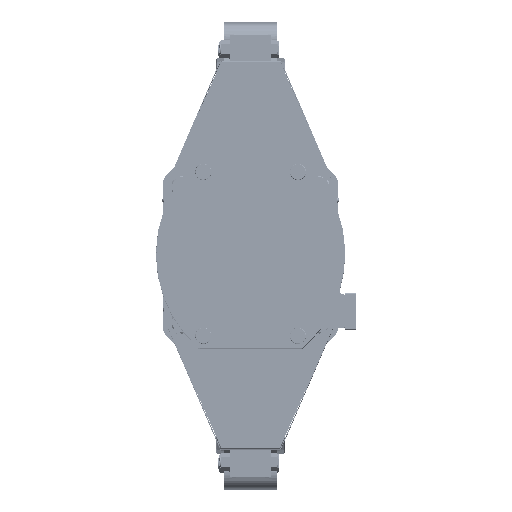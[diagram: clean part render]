
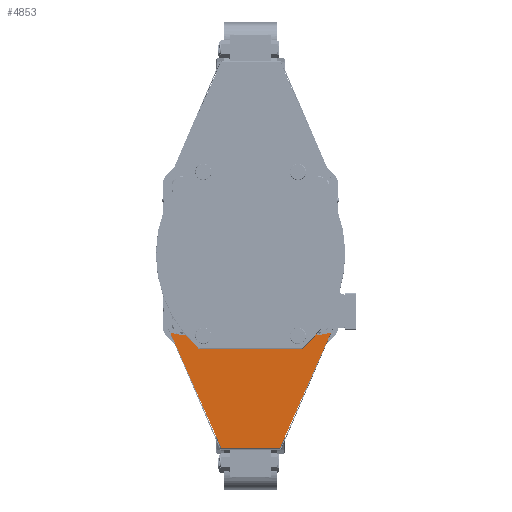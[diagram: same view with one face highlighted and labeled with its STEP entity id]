
A CAD part, top view. The second image highlights one B-rep face of the part: STEP entity #4853.
In plain terms, the highlighted planar face has unit normal (0, 0, 1).
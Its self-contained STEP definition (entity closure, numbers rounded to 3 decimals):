
#4853=ADVANCED_FACE('',(#16390),#16391,.F.);
#16390=FACE_OUTER_BOUND('',#30954,.T.);
#16391=PLANE('',#30955);
#30954=EDGE_LOOP('',(#74479,#74480,#74481,#74482,#74483,#74484,#74485,#74486,#74487));
#30955=AXIS2_PLACEMENT_3D('',#74488,#74489,#74490);
#74479=ORIENTED_EDGE('',*,*,#103595,.T.);
#74480=ORIENTED_EDGE('',*,*,#103590,.T.);
#74481=ORIENTED_EDGE('',*,*,#103596,.T.);
#74482=ORIENTED_EDGE('',*,*,#103597,.T.);
#74483=ORIENTED_EDGE('',*,*,#103583,.F.);
#74484=ORIENTED_EDGE('',*,*,#102605,.F.);
#74485=ORIENTED_EDGE('',*,*,#102603,.T.);
#74486=ORIENTED_EDGE('',*,*,#103589,.F.);
#74487=ORIENTED_EDGE('',*,*,#103598,.T.);
#74488=CARTESIAN_POINT('',(118.593,-116.296,1065.5));
#74489=DIRECTION('',(0.,0.,-1.));
#74490=DIRECTION('',(0.,-1.,0.));
#102603=EDGE_CURVE('',#132854,#133178,#133180,.T.);
#102605=EDGE_CURVE('',#132854,#133165,#133182,.T.);
#103583=EDGE_CURVE('',#133165,#134557,#134558,.T.);
#103589=EDGE_CURVE('',#134565,#133178,#134567,.T.);
#103590=EDGE_CURVE('',#134568,#134569,#134570,.T.);
#103595=EDGE_CURVE('',#134576,#134568,#134577,.T.);
#103596=EDGE_CURVE('',#134569,#134578,#134579,.T.);
#103597=EDGE_CURVE('',#134578,#134557,#134580,.T.);
#103598=EDGE_CURVE('',#134565,#134576,#134581,.T.);
#132854=VERTEX_POINT('',#175831);
#133165=VERTEX_POINT('',#176637);
#133178=VERTEX_POINT('',#176656);
#133180=LINE('',#176659,#176660);
#133182=LINE('',#176663,#176664);
#134557=VERTEX_POINT('',#179513);
#134558=LINE('',#179514,#179515);
#134565=VERTEX_POINT('',#179526);
#134567=LINE('',#179529,#179530);
#134568=VERTEX_POINT('',#179531);
#134569=VERTEX_POINT('',#179532);
#134570=LINE('',#179533,#179534);
#134576=VERTEX_POINT('',#179544);
#134577=LINE('',#179545,#179546);
#134578=VERTEX_POINT('',#179547);
#134579=LINE('',#179548,#179549);
#134580=LINE('',#179550,#179551);
#134581=LINE('',#179552,#179553);
#175831=CARTESIAN_POINT('',(42.984,-285.296,1065.5));
#176637=CARTESIAN_POINT('',(-43.593,-285.296,1065.5));
#176656=CARTESIAN_POINT('',(43.593,-285.296,1065.5));
#176659=CARTESIAN_POINT('',(42.984,-285.296,1065.5));
#176660=VECTOR('',#209891,39.37);
#176663=CARTESIAN_POINT('',(42.984,-285.296,1065.5));
#176664=VECTOR('',#209893,39.37);
#179513=CARTESIAN_POINT('',(-118.593,-116.296,1065.5));
#179514=CARTESIAN_POINT('',(-79.566,-204.236,1065.5));
#179515=VECTOR('',#211255,39.37);
#179526=CARTESIAN_POINT('',(118.593,-116.296,1065.5));
#179529=CARTESIAN_POINT('',(118.593,-116.296,1065.5));
#179530=VECTOR('',#211261,39.37);
#179531=CARTESIAN_POINT('',(112.5,-117.5,1065.5));
#179532=CARTESIAN_POINT('',(-112.5,-117.5,1065.5));
#179533=CARTESIAN_POINT('',(123.047,-117.5,1065.5));
#179534=VECTOR('',#211262,0.394);
#179544=CARTESIAN_POINT('',(113.704,-116.296,1065.5));
#179545=CARTESIAN_POINT('',(114.324,-115.676,1065.5));
#179546=VECTOR('',#211267,0.394);
#179547=CARTESIAN_POINT('',(-113.704,-116.296,1065.5));
#179548=CARTESIAN_POINT('',(-62.528,-167.472,1065.5));
#179549=VECTOR('',#211268,0.394);
#179550=CARTESIAN_POINT('',(118.593,-116.296,1065.5));
#179551=VECTOR('',#211269,39.37);
#179552=CARTESIAN_POINT('',(118.593,-116.296,1065.5));
#179553=VECTOR('',#211270,39.37);
#209891=DIRECTION('',(1.,0.,0.));
#209893=DIRECTION('',(-1.,0.,0.));
#211255=DIRECTION('',(-0.406,0.914,0.));
#211261=DIRECTION('',(-0.406,-0.914,0.));
#211262=DIRECTION('',(-1.,0.,0.));
#211267=DIRECTION('',(-0.707,-0.707,0.));
#211268=DIRECTION('',(-0.707,0.707,0.));
#211269=DIRECTION('',(-1.,0.,0.));
#211270=DIRECTION('',(-1.,0.,0.));
